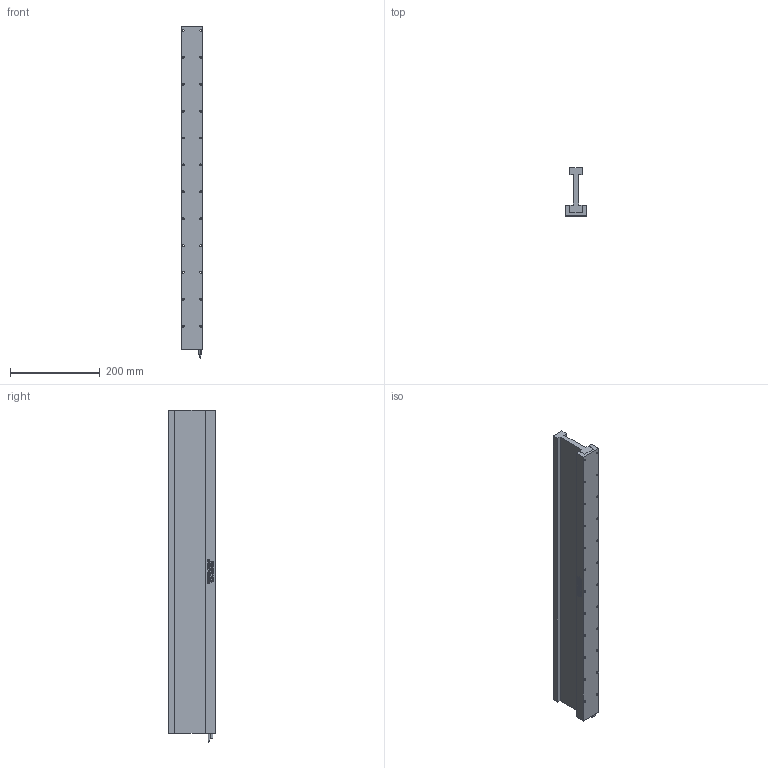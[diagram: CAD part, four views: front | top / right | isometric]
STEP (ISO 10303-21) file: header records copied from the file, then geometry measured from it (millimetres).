
FILE_DESCRIPTION (( 'STEP AP214' ), '1' );
FILE_NAME ('DX65BT-C12-000.STEP', '2016-05-09T09:26:16', ( '' ), ( '' ), 'SwSTEP 2.0', 'SolidWorks 2015', '' );
FILE_SCHEMA (( 'AUTOMOTIVE_DESIGN' ));
Length unit declared in the file: millimetre
Products named in the file (5): DX65BT-C12-001_CUSTOMER C12BT; CBL_MTR_HALL_SS_5C_SA (#2935-1); CBL_MTR_PWR_SS_7C2C_SA (#2936-1); DX65B-CX-002_C12; DX65BT-C12-000
Assembly tree (4 placements, depth 2):
  DX65BT-C12-000
    DX65B-CX-002_C12
    CBL_MTR_PWR_SS_7C2C_SA (#2936-1)
    CBL_MTR_HALL_SS_5C_SA (#2935-1)
    DX65BT-C12-001_CUSTOMER C12BT
Bounding box: 49 x 106 x 741 mm (x, y, z)
Volume: 1618961 mm3; surface area: 345690 mm2
Topology: 4 solids, 4 shells, 768 faces, 2079 edges, 1386 vertices
Faces by surface type: plane 396, bspline 314, cylinder 58
Entity records: 41109 total; most frequent: CARTESIAN_POINT 22946, ORIENTED_EDGE 4158, DIRECTION 2485, EDGE_CURVE 2079, VERTEX_POINT 1386, VECTOR 1339, LINE 1339, EDGE_LOOP 883
